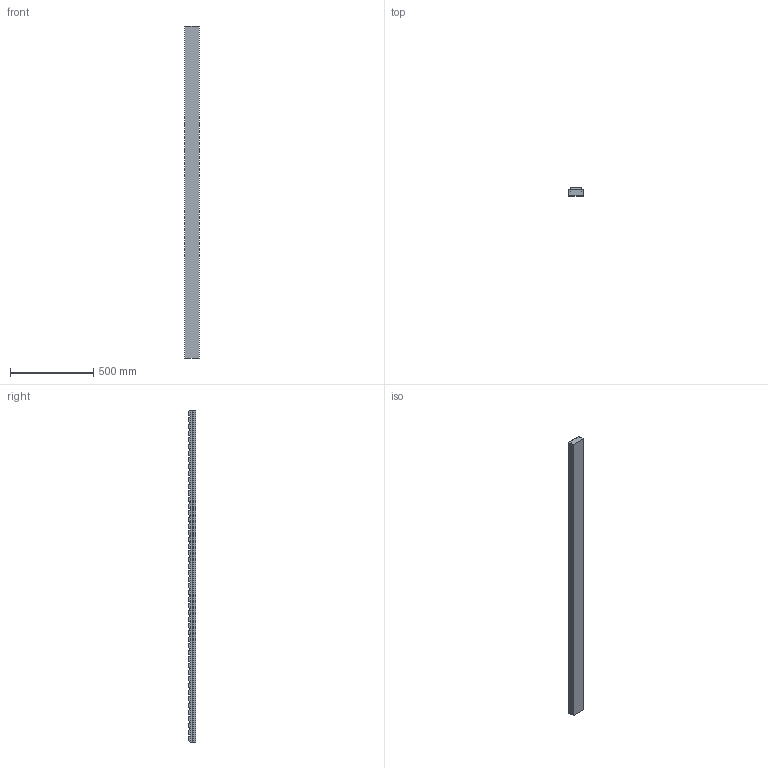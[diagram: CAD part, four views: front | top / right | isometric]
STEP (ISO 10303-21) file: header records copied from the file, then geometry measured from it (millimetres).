
FILE_DESCRIPTION (( 'STEP AP214' ), '1' );
FILE_NAME ('JB-59020.step', '2023-12-26T01:21:56', ( 'catia' ), ( 'HP Inc.' ), 'SwSTEP 2.0', 'SolidWorks 2021', '' );
FILE_SCHEMA (( 'AUTOMOTIVE_DESIGN' ));
Length unit declared in the file: millimetre
Products named in the file (1): JB-59020
Bounding box: 88 x 47.94 x 2000 mm (x, y, z)
Volume: 7202975 mm3; surface area: 611914.5 mm2
Topology: 1 solids, 1 shells, 162 faces, 330 edges, 220 vertices
Faces by surface type: plane 112, cylinder 50
Entity records: 4288 total; most frequent: DIRECTION 756, CARTESIAN_POINT 713, ORIENTED_EDGE 660, EDGE_CURVE 330, AXIS2_PLACEMENT_3D 263, VECTOR 230, LINE 230, VERTEX_POINT 220
